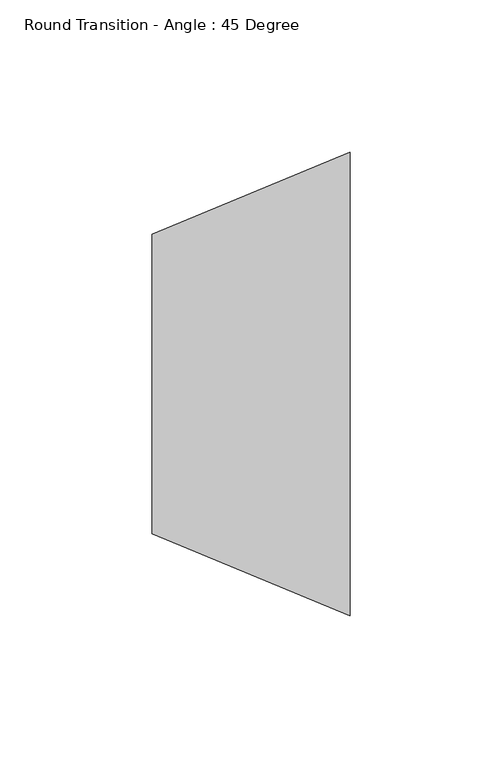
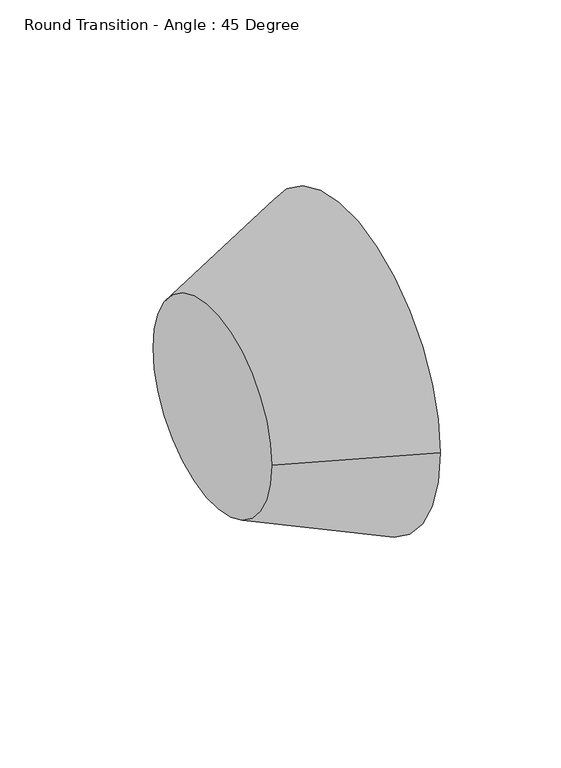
"""IFC4 building model written with IfcOpenShell, lengths in millimetres: duct fitting geometry, Round Transition - Angle : 45 Degree."""

from ifc_helpers import new_model, si_unit, frame, origin, place, context, project, spatial, circle_curve, source, transform, mapped, element, save
from ifc_brep_helpers import plane_surface, spline_surface, advanced_brep


def round_transition_angle_45_degree_b304827a(model_context):
    return source(origin(), model_context, "Body", "AdvancedBrep", [
        advanced_brep(
        [(65.1535885, -76.2, 0.0002442), (65.1535885, 76.2, 0.0002442), (0.0, -49.2125, 0.0), (0.0, 49.2125, 0.0)],
        [
            (0, 1, circle_curve(frame((65.1535885, 0.0, 0.0002442), z_axis=(1.0, 0.0, 0.0), x_axis=(0.0, 1.0, 0.0)), 76.2)),
            (1, 0, circle_curve(frame((65.1535885, 0.0, 0.0002442), z_axis=(1.0, 0.0, 0.0), x_axis=(0.0, 1.0, 0.0)), 76.2)),
            (2, 3, circle_curve(frame((0.0, 0.0, 0.0), z_axis=(-1.0, 0.0, 0.0), x_axis=(0.0, 1.0, 0.0)), 49.2125)),
            (3, 2, circle_curve(frame((0.0, 0.0, 0.0), z_axis=(-1.0, 0.0, 0.0), x_axis=(0.0, 1.0, 0.0)), 49.2125)),
            (3, 1),
            (0, 2),
        ],
        [
            plane_surface(frame((65.1535885, 0.0, 0.0002442), z_axis=(1.0, 0.0, 0.0), x_axis=(0.0, 0.0, -1.0))),
            plane_surface(frame((0.0, 0.0, 0.0), z_axis=(-1.0, 0.0, 0.0), x_axis=(0.0, 0.0, -1.0))),
            spline_surface(2, 1, [[(0.0, -49.2125, 0.0), (65.1535885, -76.2, 0.0002442)], [(0.0, -49.2125, -49.2125), (65.1535885, -76.2, -76.1997558)], [(0.0, 0.0, -49.2125), (65.1535885, 0.0, -76.1997558)], [(0.0, 49.2125, -49.2125), (65.1535885, 76.2, -76.1997558)], [(0.0, 49.2125, 0.0), (65.1535885, 76.2, 0.0002442)]], [3, 2, 3], [2, 2], [0.0, 1.0, 2.0], [0.0, 1.0], weights=[[1.0, 1.0], [0.7071067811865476, 0.7071067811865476], [1.0, 1.0], [0.7071067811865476, 0.7071067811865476], [1.0, 1.0]]),
            spline_surface(2, 1, [[(0.0, 49.2125, 0.0), (65.1535885, 76.2, 0.0002442)], [(0.0, 49.2125, 49.2125), (65.1535885, 76.2, 76.2002442)], [(0.0, 0.0, 49.2125), (65.1535885, 0.0, 76.2002442)], [(0.0, -49.2125, 49.2125), (65.1535885, -76.2, 76.2002442)], [(0.0, -49.2125, 0.0), (65.1535885, -76.2, 0.0002442)]], [3, 2, 3], [2, 2], [0.0, 1.0, 2.0], [0.0, 1.0], weights=[[1.0, 1.0], [0.7071067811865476, 0.7071067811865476], [1.0, 1.0], [0.7071067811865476, 0.7071067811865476], [1.0, 1.0]]),
        ],
        [
            (0, [[1, 2]]),
            (1, [[3, 4]]),
            (2, [[-4, 5, -1, 6]]),
            (3, [[-3, -6, -2, -5]]),
        ],
    ),
    ])


if __name__ == "__main__":
    model = new_model("IFC4")
    model_context = context("Model", 3, world=origin())
    ifc_project = project(units=[si_unit("LENGTHUNIT", "METRE", prefix="MILLI")], contexts=[model_context])
    site = spatial("IfcSite", under=ifc_project)
    building = spatial("IfcBuilding", under=site)
    placement = place(None, origin())
    round_transition_angle_45_degree_shape = round_transition_angle_45_degree_b304827a(model_context)
    element("IfcDuctFitting", 1, ObjectType="Round Transition - Angle : 45 Degree", at=placement, inside=building, context=model_context, shape_type="MappedRepresentation", body=[
        mapped(round_transition_angle_45_degree_shape, transform((0.0, 0.0, 0.0), x_axis=(1.0, 0.0, 0.0), y_axis=(0.0, 1.0, 0.0), z_axis=(0.0, 0.0, 1.0))),
    ])
    save(model, "model.ifc")
